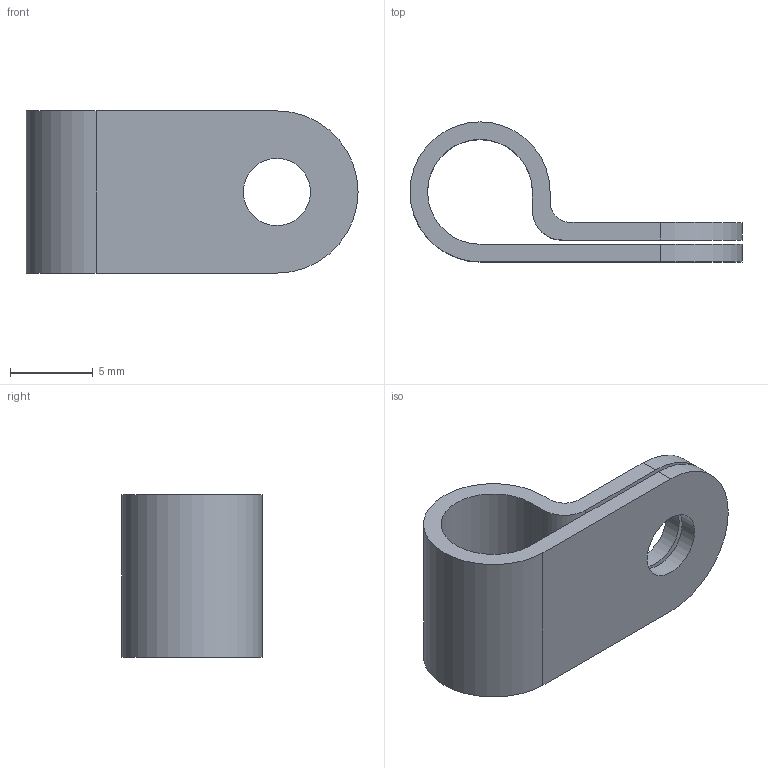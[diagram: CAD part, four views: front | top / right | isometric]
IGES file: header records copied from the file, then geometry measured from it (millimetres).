
Global section: file name: No Iges File Name specified; native system: AutoDesk Inventor R6.0; preprocessor: AutoDesk Inventor Iges Exporter R6.0; author: No Author specified; organization: No Organization specified; date: 20080103.174524; units: inch
Bounding box: 20.12 x 8.48 x 9.83 mm (x, y, z)
Surface area: 976.2 mm2 (no closed solid volume)
Topology: 0 solids, 0 shells, 16 faces, 83 edges, 81 vertices
Faces by surface type: plane 8, revolution 6, bspline 2
